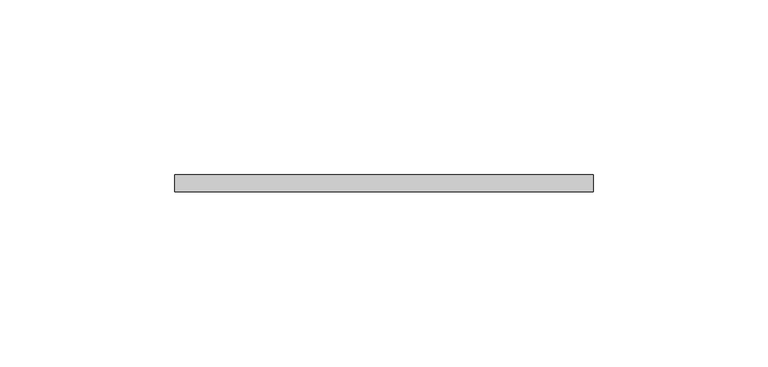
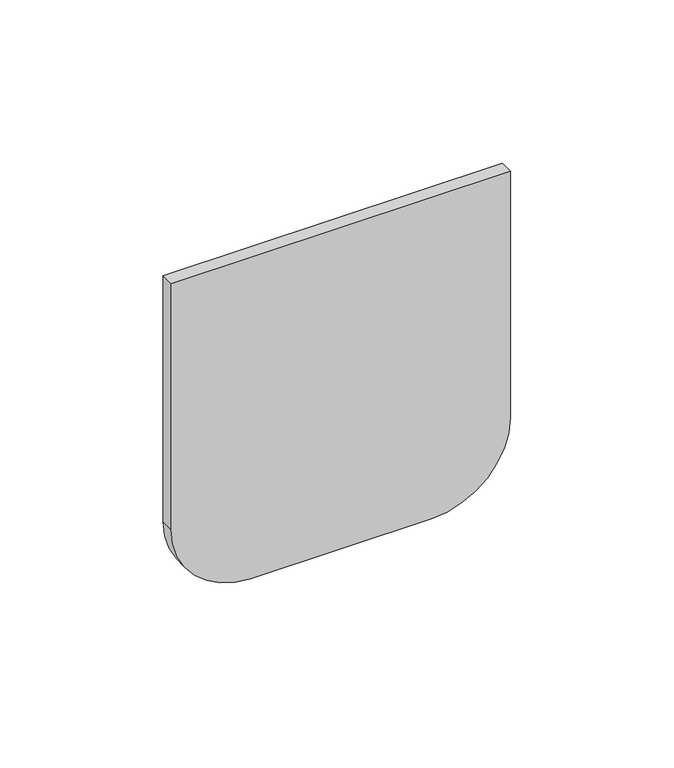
"""IFC4 building model written with IfcOpenShell, lengths in millimetres: cable carrier fitting geometry, CCT_Hyperline_FBTR-TTR Заглушка для оптического лотка : Заглушка для оптического лотка."""

from ifc_helpers import new_model, si_unit, point, frame, frame_2d, origin, place, context, project, spatial, polyline, circle_curve, trimmed, segment, composite_curve, outline, extrude, source, transform, mapped, element, save


def cable_carrier_fitting_08320c8d(model_context):
    return source(origin(), model_context, "Body", "SweptSolid", [
        extrude(outline(composite_curve([segment(trimmed(circle_curve(frame_2d((-32.0, -32.0)), 28.0), [point((-32.0, -60.0))], [point((-60.0, -32.0))], False, "CARTESIAN"), True, "CONTINUOUS"), segment(polyline([(-60.0, -32.0), (-60.0, 32.0)]), True, "CONTINUOUS"), segment(trimmed(circle_curve(frame_2d((-32.0, 32.0)), 28.0), [point((-60.0, 32.0))], [point((-32.0, 60.0))], False, "CARTESIAN"), True, "CONTINUOUS"), segment(polyline([(-32.0, 60.0), (60.0, 60.0), (60.0, -60.0), (-32.0, -60.0)]), True, "CONTINUOUS")], self_intersect=False)), frame((0.0, -2.5, 0.0), z_axis=(0.0, 1.0, 0.0), x_axis=(0.0, 0.0, 1.0)), (0.0, 0.0, 1.0), 5.0),
    ])


if __name__ == "__main__":
    model = new_model("IFC4")
    model_context = context("Model", 3, world=origin())
    ifc_project = project(units=[si_unit("LENGTHUNIT", "METRE", prefix="MILLI")], contexts=[model_context])
    site = spatial("IfcSite", under=ifc_project)
    building = spatial("IfcBuilding", under=site)
    placement = place(None, origin())
    cable_carrier_fitting_shape = cable_carrier_fitting_08320c8d(model_context)
    element("IfcCableCarrierFitting", 1, ObjectType="CCT_Hyperline_FBTR-TTR Заглушка для оптического лотка : Заглушка для оптического лотка", at=placement, inside=building, context=model_context, shape_type="MappedRepresentation", body=[
        mapped(cable_carrier_fitting_shape, transform((0.0, 0.0, 0.0), x_axis=(1.0, 0.0, 0.0), y_axis=(0.0, 1.0, 0.0), z_axis=(0.0, 0.0, 1.0))),
    ])
    save(model, "model.ifc")
